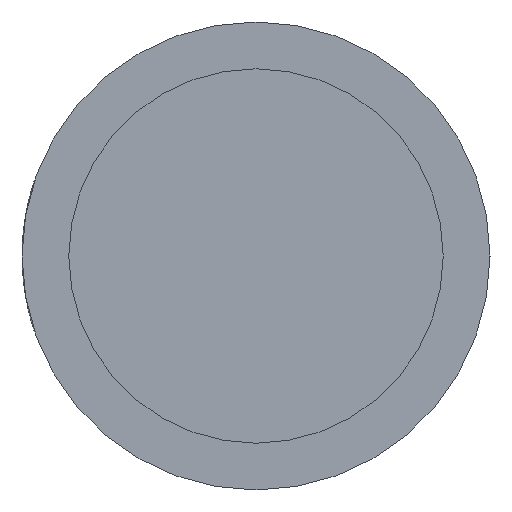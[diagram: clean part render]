
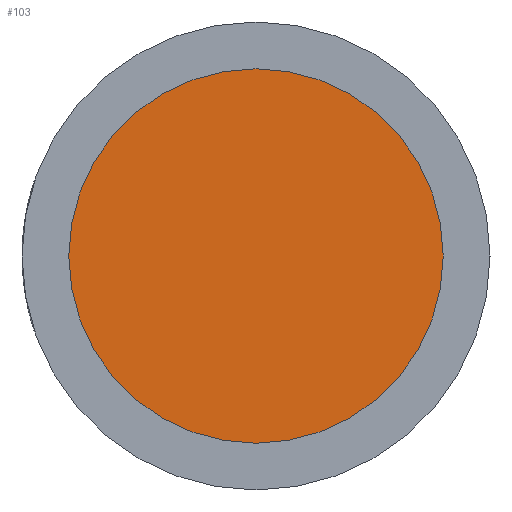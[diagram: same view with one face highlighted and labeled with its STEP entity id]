
A CAD part, left-side view. The second image highlights one B-rep face of the part: STEP entity #103.
In plain terms, the highlighted planar face has unit normal (-1, 0, 0).
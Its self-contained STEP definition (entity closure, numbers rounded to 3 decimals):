
#103 = ADVANCED_FACE( '', ( #139 ), #140, .T. );
#139 = FACE_OUTER_BOUND( '', #160, .T. );
#140 = PLANE( '', #161 );
#160 = EDGE_LOOP( '', ( #189 ) );
#161 = AXIS2_PLACEMENT_3D( '', #190, #191, #192 );
#189 = ORIENTED_EDGE( '', *, *, #258, .T. );
#190 = CARTESIAN_POINT( '', ( -20.9, 0., 0. ) );
#191 = DIRECTION( '', ( -1., 0., 0. ) );
#192 = DIRECTION( '', ( 0., -1., 0. ) );
#258 = EDGE_CURVE( '', #272, #272, #273, .T. );
#272 = VERTEX_POINT( '', #276 );
#273 = CIRCLE( '', #277, 1.2 );
#276 = CARTESIAN_POINT( '', ( -20.9, 1.2, 0. ) );
#277 = AXIS2_PLACEMENT_3D( '', #280, #281, #282 );
#280 = CARTESIAN_POINT( '', ( -20.9, 0., 0. ) );
#281 = DIRECTION( '', ( -1., 0., 0. ) );
#282 = DIRECTION( '', ( 0., 1., 0. ) );
